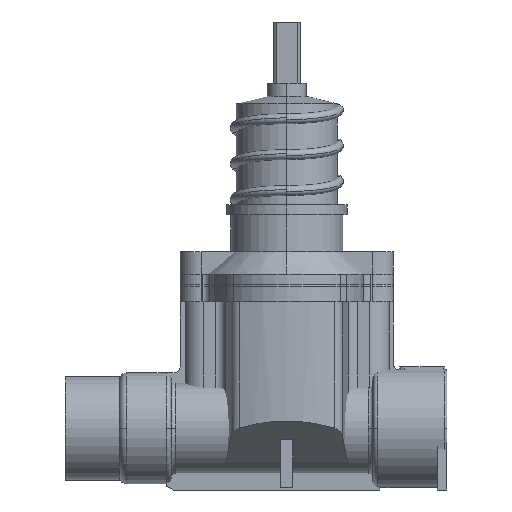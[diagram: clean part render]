
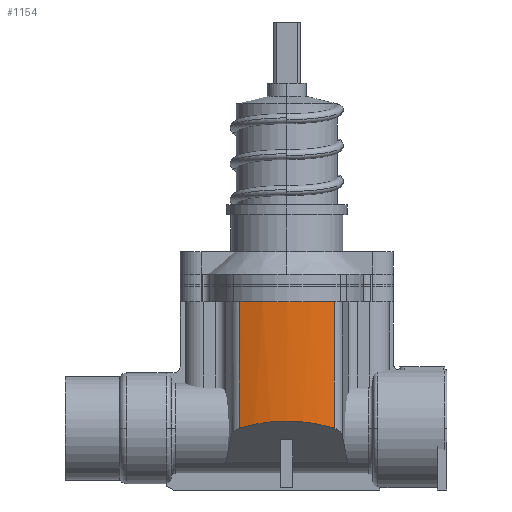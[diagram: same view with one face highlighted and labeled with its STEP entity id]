
A CAD part, front view. The second image highlights one B-rep face of the part: STEP entity #1154.
In plain terms, the highlighted cylindrical face has radius 60.001 mm (diameter 120.001 mm), a partial arc.
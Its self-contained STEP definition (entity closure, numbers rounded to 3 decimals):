
#1154=ADVANCED_FACE('',(#2163),#2164,.T.);
#2163=FACE_OUTER_BOUND('',#3290,.T.);
#2164=CYLINDRICAL_SURFACE('',#3291,60.001);
#3290=EDGE_LOOP('',(#5420,#5421,#5422,#5423));
#3291=AXIS2_PLACEMENT_3D('',#5424,#5425,#5426);
#5420=ORIENTED_EDGE('',*,*,#6525,.T.);
#5421=ORIENTED_EDGE('',*,*,#6980,.T.);
#5422=ORIENTED_EDGE('',*,*,#6306,.T.);
#5423=ORIENTED_EDGE('',*,*,#6879,.F.);
#5424=CARTESIAN_POINT('',(90.,29.001,-13.73));
#5425=DIRECTION('',(0.0,0.0,1.0));
#5426=DIRECTION('',(1.0,0.0,0.0));
#6306=EDGE_CURVE('',#7447,#7445,#7448,.T.);
#6525=EDGE_CURVE('',#7816,#7814,#7817,.T.);
#6879=EDGE_CURVE('',#7816,#7445,#8316,.T.);
#6980=EDGE_CURVE('',#7814,#7447,#8443,.T.);
#7445=VERTEX_POINT('',#8993);
#7447=VERTEX_POINT('',#8995);
#7448=CIRCLE('',#8996,60.001);
#7814=VERTEX_POINT('',#9427);
#7816=VERTEX_POINT('',#9429);
#7817=ELLIPSE('',#9430,80.412,60.001);
#8316=LINE('',#10044,#10045);
#8443=LINE('',#10195,#10196);
#8993=CARTESIAN_POINT('',(70.678,-27.804,51.406));
#8995=CARTESIAN_POINT('',(109.322,-27.804,51.406));
#8996=AXIS2_PLACEMENT_3D('',#10682,#10683,#10684);
#9427=CARTESIAN_POINT('',(109.322,-27.804,0.123));
#9429=CARTESIAN_POINT('',(70.678,-27.804,0.123));
#9430=AXIS2_PLACEMENT_3D('',#11071,#11072,#11073);
#10044=CARTESIAN_POINT('',(70.678,-27.804,-13.73));
#10045=VECTOR('',#11588,1.0);
#10195=CARTESIAN_POINT('',(109.322,-27.804,-13.73));
#10196=VECTOR('',#11726,1.0);
#10682=CARTESIAN_POINT('',(90.,29.001,51.406));
#10683=DIRECTION('',(0.0,0.0,-1.0));
#10684=DIRECTION('',(1.0,0.0,0.0));
#11071=CARTESIAN_POINT('',(90.,29.001,-50.561));
#11072=DIRECTION('',(0.0,0.666,0.746));
#11073=DIRECTION('',(0.0,0.746,-0.666));
#11588=DIRECTION('',(0.0,0.0,1.0));
#11726=DIRECTION('',(0.0,0.0,1.0));
